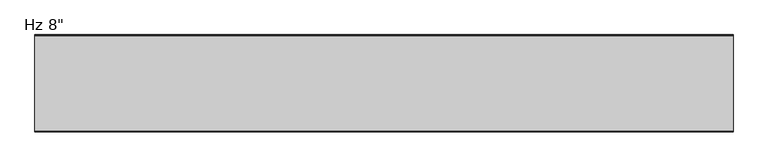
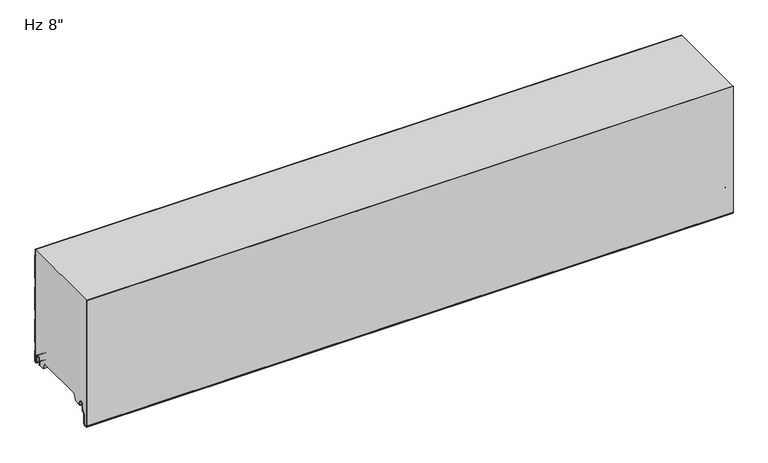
"""IFC4 building model written with IfcOpenShell, lengths in millimetres: plate geometry."""

import ifcopenshell
import ifcopenshell.guid

model = None  # the IFC model being written
_history = None  # IfcOwnerHistory: only IFC2X3 demands one
_inside = {}  # id of a spatial element -> (the spatial element, [elements in it])
_under = {}  # id of a project, library or spatial element -> (it, [spatial elements below it])
_declared = {}  # id of a project -> (the project, [libraries it declares])
_typed = {}  # id of a type object -> (the type object, [elements of that type])
_made_of = {}  # id of a material, layer set ... -> (it, [elements and type objects made of it])


def new_model(schema):
    """Start an empty IFC model of exactly this schema.

    Asked for "IFC4X3", IfcOpenShell would pick the latest addendum, in which some entities
    have other attributes; the version numbers below select the first issue.
    IFC2X3 requires an IfcOwnerHistory on every rooted entity: one is made here for all.
    """
    global model, _history
    if schema == "IFC4X3":
        model = ifcopenshell.file(schema_version=(4, 3, 0, 0))
    else:
        model = ifcopenshell.file(schema=schema)
    _inside.clear()
    _under.clear()
    _declared.clear()
    _typed.clear()
    _made_of.clear()
    _history = None
    if model.schema == "IFC2X3":
        org = make("IfcOrganization", Name="unknown")
        user = make(
            "IfcPersonAndOrganization",
            ThePerson=make("IfcPerson", FamilyName="unknown"),
            TheOrganization=org,
        )
        app = make(
            "IfcApplication",
            ApplicationDeveloper=org,
            Version="unknown",
            ApplicationFullName="unknown",
            ApplicationIdentifier="unknown",
        )
        _history = make(
            "IfcOwnerHistory",
            OwningUser=user,
            OwningApplication=app,
            ChangeAction="ADDED",
            CreationDate=0,
        )
    return model


def make(cls, **values):
    """One entity of the class cls with the attributes given. An attribute that is None is left unset."""
    return model.create_entity(
        cls, **{name: value for name, value in values.items() if value is not None}
    )


def rooted(cls, **values):
    """An entity with a GlobalId (a new one), such as an element, a storey or a relation."""
    return make(cls, GlobalId=ifcopenshell.guid.new(), OwnerHistory=_history, **values)


def si_unit(unit_type, name, prefix=None):
    """IfcSIUnit, for example si_unit("LENGTHUNIT", "METRE", prefix="MILLI")."""
    return make("IfcSIUnit", UnitType=unit_type, Prefix=prefix, Name=name)


def assignment(units):
    """IfcUnitAssignment: the units of a project."""
    return None if units is None else make("IfcUnitAssignment", Units=units)


def point(xyz):
    """IfcCartesianPoint."""
    return None if xyz is None else make("IfcCartesianPoint", Coordinates=xyz)


def direction(xyz):
    """IfcDirection."""
    return None if xyz is None else make("IfcDirection", DirectionRatios=xyz)


def frame(location, z_axis=None, x_axis=None):
    """IfcAxis2Placement3D, a coordinate frame: its origin and axes. An axis left out is left unset."""
    return make(
        "IfcAxis2Placement3D",
        Location=point(location),
        Axis=direction(z_axis),
        RefDirection=direction(x_axis),
    )


def frame_2d(location, x_axis=None):
    """IfcAxis2Placement2D, a coordinate frame in the plane: its origin and x axis."""
    return make(
        "IfcAxis2Placement2D", Location=point(location), RefDirection=direction(x_axis)
    )


def origin():
    """The frame at (0, 0, 0) with its axes left unset."""
    return frame((0.0, 0.0, 0.0))


def place(relative_to, where):
    """IfcLocalPlacement: puts the frame where relative to a parent placement (None: the world)."""
    return make(
        "IfcLocalPlacement", PlacementRelTo=relative_to, RelativePlacement=where
    )


def context(
    kind, dimensions, precision=None, world=None, true_north=None, identifier=None
):
    """IfcGeometricRepresentationContext, for example the 3D "Model" context."""
    return make(
        "IfcGeometricRepresentationContext",
        ContextIdentifier=identifier,
        ContextType=kind,
        CoordinateSpaceDimension=dimensions,
        Precision=precision,
        WorldCoordinateSystem=world,
        TrueNorth=true_north,
    )


def project(units=None, contexts=None):
    """IfcProject with its units and contexts."""
    return rooted(
        "IfcProject",
        Name="project",
        RepresentationContexts=contexts,
        UnitsInContext=assignment(units),
    )


def spatial(cls, under=None, at=None, **own):
    """A site, building, storey or space (cls), placed at a placement, below another one or the project."""
    s = rooted(cls, ObjectPlacement=at, **own)
    if under is not None:
        _under.setdefault(under.id(), (under, []))[1].append(s)
    return s


def polyline(points):
    """IfcPolyline through the points."""
    return make("IfcPolyline", Points=[point(p) for p in points])


def circle_curve(where, radius):
    """IfcCircle in the frame where."""
    return make("IfcCircle", Position=where, Radius=radius)


def trimmed(basis, trim1, trim2, sense, master):
    """IfcTrimmedCurve: the piece of a basis curve between two trims."""
    return make(
        "IfcTrimmedCurve",
        BasisCurve=basis,
        Trim1=trim1,
        Trim2=trim2,
        SenseAgreement=sense,
        MasterRepresentation=master,
    )


def segment(curve, same_sense, transition):
    """IfcCompositeCurveSegment."""
    return make(
        "IfcCompositeCurveSegment",
        Transition=transition,
        SameSense=same_sense,
        ParentCurve=curve,
    )


def composite_curve(segments, self_intersect=None):
    """IfcCompositeCurve: segments joined end to end."""
    return make("IfcCompositeCurve", Segments=segments, SelfIntersect=self_intersect)


def outline(outer, holes=None, kind="AREA"):
    """IfcArbitraryClosedProfileDef: a profile drawn as a closed curve; with holes, ...WithVoids."""
    if holes is None:
        return make("IfcArbitraryClosedProfileDef", ProfileType=kind, OuterCurve=outer)
    return make(
        "IfcArbitraryProfileDefWithVoids",
        ProfileType=kind,
        OuterCurve=outer,
        InnerCurves=holes,
    )


def extrude(swept, where, along, depth):
    """IfcExtrudedAreaSolid: the profile swept, set in the frame where, extruded along a direction by depth."""
    return make(
        "IfcExtrudedAreaSolid",
        SweptArea=swept,
        Position=where,
        ExtrudedDirection=direction(along),
        Depth=depth,
    )


def shape(context_of_items, identifier, shape_type, items):
    """IfcShapeRepresentation: the items that make up one representation, for example the "Body"."""
    return make(
        "IfcShapeRepresentation",
        ContextOfItems=context_of_items,
        RepresentationIdentifier=identifier,
        RepresentationType=shape_type,
        Items=items,
    )


def source(mapping_origin, context_of_items, identifier, shape_type, items):
    """IfcRepresentationMap: a shape defined once, which mapped items show again and again."""
    return make(
        "IfcRepresentationMap",
        MappingOrigin=mapping_origin,
        MappedRepresentation=shape(context_of_items, identifier, shape_type, items),
    )


def transform(
    local_origin,
    x_axis=None,
    y_axis=None,
    z_axis=None,
    scale=None,
    scale2=None,
    scale3=None,
    uniform=True,
):
    """IfcCartesianTransformationOperator3D, or its non-uniform kind. x_axis, y_axis, z_axis: its Axis1, 2, 3."""
    if uniform:
        return make(
            "IfcCartesianTransformationOperator3D",
            Axis1=direction(x_axis),
            Axis2=direction(y_axis),
            LocalOrigin=point(local_origin),
            Scale=scale,
            Axis3=direction(z_axis),
        )
    return make(
        "IfcCartesianTransformationOperator3DnonUniform",
        Axis1=direction(x_axis),
        Axis2=direction(y_axis),
        LocalOrigin=point(local_origin),
        Scale=scale,
        Axis3=direction(z_axis),
        Scale2=scale2,
        Scale3=scale3,
    )


def mapped(mapping_source, mapping_target):
    """IfcMappedItem: shows the shape of a source again, moved by a transform."""
    return make(
        "IfcMappedItem", MappingSource=mapping_source, MappingTarget=mapping_target
    )


def made_of(thing, what):
    """Note that an element or type object is made of a material, layer set ...; save() writes the relation."""
    if what is not None:
        _made_of.setdefault(what.id(), (what, []))[1].append(thing)
    return thing


def element(
    cls,
    number,
    at=None,
    inside=None,
    cuts=None,
    type_object=None,
    material=None,
    context=None,
    identifier="Body",
    shape_type=None,
    held_by="IfcProductDefinitionShape",
    body=None,
    shapes=None,
    **own,
):
    """One element of the class cls, such as IfcWall. Its Tag is "e" and its number.

    at: its placement. inside: the storey or other place that contains it. cuts: it is an
    opening in that element (IfcRelVoidsElement). A single representation is given by context,
    identifier, shape_type and body (its items); several are given by shapes. held_by: the class
    of the entity that holds the representations. save() writes the other relations.
    """
    e = rooted(cls, Tag="e%d" % number, ObjectPlacement=at, **own)
    if body is not None:
        shapes = [shape(context, identifier, shape_type, body)]
    if shapes is not None:
        e.Representation = make(held_by, Representations=shapes)
    if inside is not None:
        _inside.setdefault(inside.id(), (inside, []))[1].append(e)
    if cuts is not None:
        rooted(
            "IfcRelVoidsElement", RelatingBuildingElement=cuts, RelatedOpeningElement=e
        )
    if type_object is not None:
        _typed.setdefault(type_object.id(), (type_object, []))[1].append(e)
    return made_of(e, material)


def aggregate(whole, parts):
    """IfcRelAggregates: a whole, such as a stair, and the parts it consists of."""
    return rooted("IfcRelAggregates", RelatingObject=whole, RelatedObjects=parts)


def save(model, path):
    """Write the relations noted so far, then the file.

    IfcRelAggregates (storeys below a building ...), IfcRelContainedInSpatialStructure (elements
    in a storey), IfcRelDefinesByType, IfcRelAssociatesMaterial and IfcRelDeclares: one each for
    every whole, place, type object, material and project.
    """
    for whole, parts in _under.values():
        aggregate(whole, parts)
    for where, things in _inside.values():
        rooted(
            "IfcRelContainedInSpatialStructure",
            RelatedElements=things,
            RelatingStructure=where,
        )
    for kind, things in _typed.values():
        rooted("IfcRelDefinesByType", RelatedObjects=things, RelatingType=kind)
    for what, things in _made_of.values():
        rooted("IfcRelAssociatesMaterial", RelatedObjects=things, RelatingMaterial=what)
    for by, libraries in _declared.values():
        rooted("IfcRelDeclares", RelatingContext=by, RelatedDefinitions=libraries)
    model.write(path)


def plate_c80c6800(model_context):
    return source(origin(), model_context, "Body", "SweptSolid", [
        extrude(outline(composite_curve([segment(trimmed(circle_curve(frame_2d((-2.3985037, -0.4487243)), 2.3999705), [point((-3.12e-05, -0.3639402))], [point((-2.3985037, -2.8486949))], False, "CARTESIAN"), True, "CONTINUOUS"), segment(polyline([(-2.3985037, -2.8486949), (-3.9516205, -2.8486949)]), True, "CONTINUOUS"), segment(trimmed(circle_curve(frame_2d((-3.9516205, 0.3613604)), 3.2100553), [point((-3.9516205, -2.8486949))], [point((-7.1616758, 0.3613604))], False, "CARTESIAN"), True, "CONTINUOUS"), segment(polyline([(-7.1616758, 0.3613604), (-7.1616758, 13.8905885)]), True, "CONTINUOUS"), segment(trimmed(circle_curve(frame_2d((-9.8816619, 13.8905885)), 2.7199861), [point((-7.1616758, 13.8905885))], [point((-9.8816619, 16.6105746))], True, "CARTESIAN"), True, "CONTINUOUS"), segment(polyline([(-9.8816619, 16.6105746), (-13.5282598, 16.6105746)]), True, "CONTINUOUS"), segment(trimmed(circle_curve(frame_2d((-13.5282598, 13.8905782)), 2.7199964), [point((-13.5282598, 16.6105746))], [point((-16.2482561, 13.8905782))], True, "CARTESIAN"), True, "CONTINUOUS"), segment(polyline([(-16.2482561, 13.8905782), (-16.2482561, 1.189897)]), True, "CONTINUOUS"), segment(trimmed(circle_curve(frame_2d((-17.7722572, 1.189897)), 1.524001), [point((-16.2482561, 1.189897))], [point((-19.2731052, 1.454537))], False, "CARTESIAN"), True, "CONTINUOUS"), segment(polyline([(-19.2731052, 1.454537), (-18.1704393, 7.7080661), (-17.2482561, 7.5454603), (-17.2482561, 13.8905782)]), True, "CONTINUOUS"), segment(trimmed(circle_curve(frame_2d((-13.5282598, 13.8905782)), 3.7199964), [point((-17.2482561, 13.8905782))], [point((-13.5282598, 17.6105746))], False, "CARTESIAN"), True, "CONTINUOUS"), segment(polyline([(-13.5282598, 17.6105746), (-9.8816619, 17.6105746)]), True, "CONTINUOUS"), segment(trimmed(circle_curve(frame_2d((-9.8816619, 13.8905885)), 3.7199861), [point((-9.8816619, 17.6105746))], [point((-6.1616758, 13.8905885))], False, "CARTESIAN"), True, "CONTINUOUS"), segment(polyline([(-6.1616758, 13.8905885), (-6.1616758, 0.3613604)]), True, "CONTINUOUS"), segment(trimmed(circle_curve(frame_2d((-3.9516205, 0.3613604)), 2.2100553), [point((-6.1616758, 0.3613604))], [point((-3.9516205, -1.8486949))], True, "CARTESIAN"), True, "CONTINUOUS"), segment(polyline([(-3.9516205, -1.8486949), (-2.3985037, -1.8486949)]), True, "CONTINUOUS"), segment(trimmed(circle_curve(frame_2d((-2.3985037, -0.4487243)), 1.3999705), [point((-2.3985037, -1.8486949))], [point((-1.0000312, -0.3839769))], True, "CARTESIAN"), True, "CONTINUOUS"), segment(polyline([(-1.0000312, -0.3839769), (-1.0000312, 22.2866086), (-2.2002516, 23.486829), (-2.2002516, 43.1222888), (-1.0000209, 44.3225195), (-1.0000209, 98.4864459), (-2.2002516, 99.6866766), (-2.2002516, 119.3221364), (-1.0000209, 120.5223671), (-1.0000209, 174.6698551), (-2.2002516, 175.8700858), (-2.2002516, 195.5055456), (-1.0000209, 196.7057763), (-1.0000209, 250.8532643), (-2.2002516, 252.0534951), (-2.2002516, 266.4), (-1.2002516, 266.4), (-1.2002516, 252.4677086), (-2.09e-05, 251.2674779), (-2.09e-05, 196.2915628), (-1.2002516, 195.091332), (-1.2002516, 176.2842994), (-2.09e-05, 175.0840687), (-2.09e-05, 120.1081535), (-1.2002516, 118.9079228), (-1.2002516, 100.1008902), (-2.09e-05, 98.9006594), (-2.09e-05, 43.9083059), (-1.2002516, 42.7080752), (-1.2002516, 23.9010426), (-3.12e-05, 22.7008222), (-3.12e-05, -0.3639402)]), True, "CONTINUOUS")], self_intersect=False)), frame((-730.0, 0.0, 0.0), z_axis=(1.0, 0.0, 0.0), x_axis=(0.0, 1.0, 0.0)), (0.0, 0.0, 1.0), 1460.0),
        extrude(outline(composite_curve([segment(trimmed(circle_curve(frame_2d((-174.9060531, 0.8654988)), 1.2), [point((-173.7060541, 0.8670134))], [point((-176.1045377, 0.8052116))], False, "CARTESIAN"), True, "CONTINUOUS"), segment(polyline([(-176.1045377, 0.8052116), (-176.1045377, 7.3245305)]), True, "CONTINUOUS"), segment(trimmed(circle_curve(frame_2d((-178.4545376, 7.3245305)), 2.3499999), [point((-176.1045377, 7.3245305))], [point((-178.4545376, 9.6745305))], True, "CARTESIAN"), True, "CONTINUOUS"), segment(polyline([(-178.4545376, 9.6745305), (-182.8545375, 9.6745305)]), True, "CONTINUOUS"), segment(trimmed(circle_curve(frame_2d((-182.8545375, 7.3245305)), 2.3499999), [point((-182.8545375, 9.6745305))], [point((-185.2045374, 7.3245305))], True, "CARTESIAN"), True, "CONTINUOUS"), segment(polyline([(-185.2045374, 7.3245305), (-185.2045374, -4.4863817)]), True, "CONTINUOUS"), segment(trimmed(circle_curve(frame_2d((-187.9045374, -4.4863817)), 2.7), [point((-185.2045374, -4.4863817))], [point((-185.9953491, -6.39557))], False, "CARTESIAN"), True, "CONTINUOUS"), segment(polyline([(-185.9953491, -6.39557), (-190.735908, -11.1361289)]), True, "CONTINUOUS"), segment(trimmed(circle_curve(frame_2d((-189.6045372, -12.2674998)), 1.6), [point((-190.735908, -11.1361289))], [point((-191.2045372, -12.2674998))], True, "CARTESIAN"), True, "CONTINUOUS"), segment(polyline([(-191.2045372, -12.2674998), (-191.2045372, -33.274257)]), True, "CONTINUOUS"), segment(trimmed(circle_curve(frame_2d((-194.9045372, -33.274257)), 3.7), [point((-191.2045372, -33.274257))], [point((-194.58177, -36.960152))], False, "CARTESIAN"), True, "CONTINUOUS"), segment(polyline([(-194.58177, -36.960152), (-199.3287586, -37.3758371)]), True, "CONTINUOUS"), segment(trimmed(circle_curve(frame_2d((-199.6393697, -33.8287598)), 3.5606512), [point((-199.3287586, -37.3758371))], [point((-203.2000209, -33.8287598))], False, "CARTESIAN"), True, "CONTINUOUS"), segment(polyline([(-203.2000209, -33.8287598), (-203.2000209, 266.4), (-202.2000209, 266.4), (-202.2000209, -33.8287598)]), True, "CONTINUOUS"), segment(trimmed(circle_curve(frame_2d((-199.6393697, -33.8287598)), 2.5606512), [point((-202.2000209, -33.8287598))], [point((-199.4159929, -36.3796493))], True, "CARTESIAN"), True, "CONTINUOUS"), segment(polyline([(-199.4159929, -36.3796493), (-194.6690044, -35.9639641)]), True, "CONTINUOUS"), segment(trimmed(circle_curve(frame_2d((-194.9045372, -33.274257)), 2.7), [point((-194.6690044, -35.9639641))], [point((-192.2045372, -33.274257))], True, "CARTESIAN"), True, "CONTINUOUS"), segment(polyline([(-192.2045372, -33.274257), (-192.2045372, -12.2674998)]), True, "CONTINUOUS"), segment(trimmed(circle_curve(frame_2d((-189.6045372, -12.2674998)), 2.6), [point((-192.2045372, -12.2674998))], [point((-191.4430148, -10.4290221))], False, "CARTESIAN"), True, "CONTINUOUS"), segment(polyline([(-191.4430148, -10.4290221), (-186.7024559, -5.6884632)]), True, "CONTINUOUS"), segment(trimmed(circle_curve(frame_2d((-187.9045374, -4.4863817)), 1.7), [point((-186.7024559, -5.6884632))], [point((-186.2045374, -4.4863817))], True, "CARTESIAN"), True, "CONTINUOUS"), segment(polyline([(-186.2045374, -4.4863817), (-186.2045374, 7.3245305)]), True, "CONTINUOUS"), segment(trimmed(circle_curve(frame_2d((-182.8545375, 7.3245305)), 3.3499999), [point((-186.2045374, 7.3245305))], [point((-182.8545375, 10.6745305))], False, "CARTESIAN"), True, "CONTINUOUS"), segment(polyline([(-182.8545375, 10.6745305), (-178.4545376, 10.6745305)]), True, "CONTINUOUS"), segment(trimmed(circle_curve(frame_2d((-178.4545376, 7.3245305)), 3.3499999), [point((-178.4545376, 10.6745305))], [point((-175.1045377, 7.3245305))], False, "CARTESIAN"), True, "CONTINUOUS"), segment(polyline([(-175.1045377, 7.3245305), (-175.1045377, 4.6254142), (-173.7060541, 4.6254142), (-173.7060541, 0.8670134)]), True, "CONTINUOUS")], self_intersect=False)), frame((-730.0, 0.0, 0.0), z_axis=(1.0, 0.0, 0.0), x_axis=(0.0, 1.0, 0.0)), (0.0, 0.0, 1.0), 1460.0),
        extrude(outline(composite_curve([segment(trimmed(circle_curve(frame_2d((-178.4545376, 7.3245305)), 3.3499999), [point((-175.1045377, 7.3245305))], [point((-178.4545376, 10.6745305))], True, "CARTESIAN"), True, "CONTINUOUS"), segment(polyline([(-178.4545376, 10.6745305), (-182.8545375, 10.6745305)]), True, "CONTINUOUS"), segment(trimmed(circle_curve(frame_2d((-182.8545375, 7.3245305)), 3.3499999), [point((-182.8545375, 10.6745305))], [point((-186.2045374, 7.3245305))], True, "CARTESIAN"), True, "CONTINUOUS"), segment(polyline([(-186.2045374, 7.3245305), (-186.2045374, -4.4863817)]), True, "CONTINUOUS"), segment(trimmed(circle_curve(frame_2d((-187.9045374, -4.4863817)), 1.7), [point((-186.2045374, -4.4863817))], [point((-186.7024559, -5.6884632))], False, "CARTESIAN"), True, "CONTINUOUS"), segment(polyline([(-186.7024559, -5.6884632), (-191.4430148, -10.4290221)]), True, "CONTINUOUS"), segment(trimmed(circle_curve(frame_2d((-189.6045372, -12.2674998)), 2.6), [point((-191.4430148, -10.4290221))], [point((-192.2045372, -12.2674998))], True, "CARTESIAN"), True, "CONTINUOUS"), segment(polyline([(-192.2045372, -12.2674998), (-192.2045372, -33.274257)]), True, "CONTINUOUS"), segment(trimmed(circle_curve(frame_2d((-194.9045372, -33.274257)), 2.7), [point((-192.2045372, -33.274257))], [point((-194.6690044, -35.9639641))], False, "CARTESIAN"), True, "CONTINUOUS"), segment(polyline([(-194.6690044, -35.9639641), (-199.4159929, -36.3796493)]), True, "CONTINUOUS"), segment(trimmed(circle_curve(frame_2d((-199.6393697, -33.8287598)), 2.5606512), [point((-199.4159929, -36.3796493))], [point((-202.2000209, -33.8287598))], False, "CARTESIAN"), True, "CONTINUOUS"), segment(polyline([(-202.2000209, -33.8287598), (-202.2000209, 266.4), (-2.2002516, 266.4), (-2.2002516, 252.0534951), (-1.0000209, 250.8532643), (-1.0000209, 196.7057763), (-2.2002516, 195.5055456), (-2.2002516, 175.8700858), (-1.0000209, 174.6698551), (-1.0000209, 120.5223671), (-2.2002516, 119.3221364), (-2.2002516, 99.6866766), (-1.0000209, 98.4864459), (-1.0000209, 44.3225195), (-2.2002516, 43.1222888), (-2.2002516, 23.486829), (-1.0000312, 22.2866086), (-1.0000312, -0.3839769)]), True, "CONTINUOUS"), segment(trimmed(circle_curve(frame_2d((-2.3985037, -0.4487243)), 1.3999705), [point((-1.0000312, -0.3839769))], [point((-2.3985037, -1.8486949))], False, "CARTESIAN"), True, "CONTINUOUS"), segment(polyline([(-2.3985037, -1.8486949), (-3.9516205, -1.8486949)]), True, "CONTINUOUS"), segment(trimmed(circle_curve(frame_2d((-3.9516205, 0.3613604)), 2.2100553), [point((-3.9516205, -1.8486949))], [point((-6.1616758, 0.3613604))], False, "CARTESIAN"), True, "CONTINUOUS"), segment(polyline([(-6.1616758, 0.3613604), (-6.1616758, 13.8905885)]), True, "CONTINUOUS"), segment(trimmed(circle_curve(frame_2d((-9.8816619, 13.8905885)), 3.7199861), [point((-6.1616758, 13.8905885))], [point((-9.8816619, 17.6105746))], True, "CARTESIAN"), True, "CONTINUOUS"), segment(polyline([(-9.8816619, 17.6105746), (-13.5282598, 17.6105746)]), True, "CONTINUOUS"), segment(trimmed(circle_curve(frame_2d((-13.5282598, 13.8905782)), 3.7199964), [point((-13.5282598, 17.6105746))], [point((-17.2482561, 13.8905782))], True, "CARTESIAN"), True, "CONTINUOUS"), segment(polyline([(-17.2482561, 13.8905782), (-17.2482561, 7.5454603), (-18.1704393, 7.7080661), (-19.2731052, 1.454537)]), True, "CONTINUOUS"), segment(trimmed(circle_curve(frame_2d((-17.7722572, 1.189897)), 1.524001), [point((-19.2731052, 1.454537))], [point((-18.724478, 0.0))], True, "CARTESIAN"), True, "CONTINUOUS"), segment(polyline([(-18.724478, 0.0), (-33.5050787, 0.0), (-39.1301227, 14.9979533), (-153.3686274, 14.9979533), (-158.9928551, 0.0), (-174.0748421, 0.0)]), True, "CONTINUOUS"), segment(trimmed(circle_curve(frame_2d((-174.9060531, 0.8654988)), 1.2), [point((-174.0748421, 0.0))], [point((-173.7060541, 0.8670134))], True, "CARTESIAN"), True, "CONTINUOUS"), segment(polyline([(-173.7060541, 0.8670134), (-173.7060541, 4.6254142), (-175.1045377, 4.6254142), (-175.1045377, 7.3245305)]), True, "CONTINUOUS")], self_intersect=False)), frame((-730.0, 0.0, 0.0), z_axis=(1.0, 0.0, 0.0), x_axis=(0.0, 1.0, 0.0)), (0.0, 0.0, 1.0), 1460.0),
    ])


if __name__ == "__main__":
    model = new_model("IFC4")
    model_context = context("Model", 3, world=origin())
    ifc_project = project(units=[si_unit("LENGTHUNIT", "METRE", prefix="MILLI")], contexts=[model_context])
    site = spatial("IfcSite", under=ifc_project)
    building = spatial("IfcBuilding", under=site)
    placement = place(None, origin())
    plate_shape = plate_c80c6800(model_context)
    element("IfcPlate", 1, ObjectType="KIP-42-KRHF-R19-CP-Hz-FL_SL : Hz 8\"", at=placement, inside=building, context=model_context, shape_type="MappedRepresentation", body=[
        mapped(plate_shape, transform((0.0, 0.0, 0.0), x_axis=(1.0, 0.0, 0.0), y_axis=(0.0, 1.0, 0.0), z_axis=(0.0, 0.0, 1.0))),
    ])
    save(model, "model.ifc")
